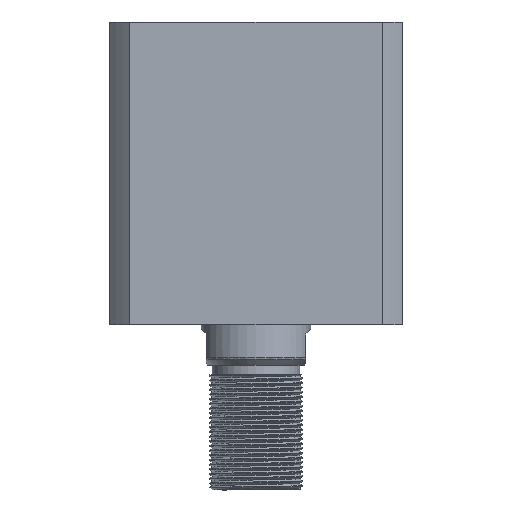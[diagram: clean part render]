
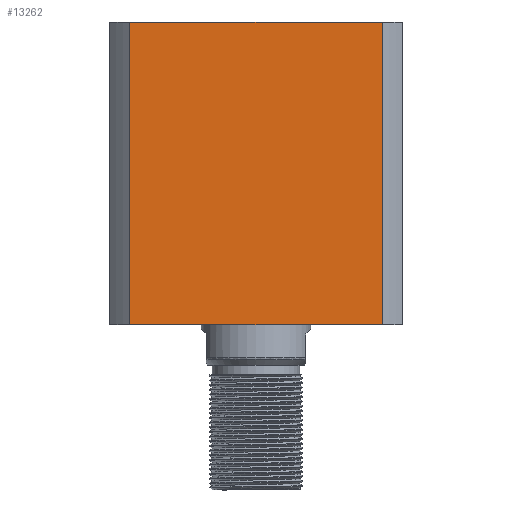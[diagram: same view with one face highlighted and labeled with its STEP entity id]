
A CAD part, front view. The second image highlights one B-rep face of the part: STEP entity #13262.
In plain terms, the highlighted planar face has unit normal (0, -1, 0) as drawn and (0, 1, 0) by its records, which use the part's own axes.
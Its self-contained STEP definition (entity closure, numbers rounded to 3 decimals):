
#1416 = LINE ( 'NONE', #7533, #14822 ) ;
#1929 = EDGE_CURVE ( 'NONE', #8744, #21525, #1416, .T. ) ;
#2259 = VECTOR ( 'NONE', #9246, 1000. ) ;
#3607 = FACE_OUTER_BOUND ( 'NONE', #14651, .T. ) ;
#5326 = CARTESIAN_POINT ( 'NONE',  ( -40.435, 47., 97. ) ) ;
#5847 = ORIENTED_EDGE ( 'NONE', *, *, #10302, .F. ) ;
#6116 = LINE ( 'NONE', #19848, #19928 ) ;
#7208 = VERTEX_POINT ( 'NONE', #5326 ) ;
#7399 = AXIS2_PLACEMENT_3D ( 'NONE', #11323, #21715, #11396 ) ;
#7470 = CARTESIAN_POINT ( 'NONE',  ( -40.435, 47., -203. ) ) ;
#7533 = CARTESIAN_POINT ( 'NONE',  ( 40.435, 47., -203. ) ) ;
#8224 = CARTESIAN_POINT ( 'NONE',  ( -47., 47., 0. ) ) ;
#8744 = VERTEX_POINT ( 'NONE', #14064 ) ;
#9246 = DIRECTION ( 'NONE',  ( 0., 0., -1. ) ) ;
#9658 = PLANE ( 'NONE',  #7399 ) ;
#10302 = EDGE_CURVE ( 'NONE', #21525, #7208, #6116, .T. ) ;
#10486 = ORIENTED_EDGE ( 'NONE', *, *, #1929, .F. ) ;
#11152 = EDGE_CURVE ( 'NONE', #7208, #21612, #16160, .T. ) ;
#11323 = CARTESIAN_POINT ( 'NONE',  ( -47., 47., 97. ) ) ;
#11396 = DIRECTION ( 'NONE',  ( 0., 0., -1. ) ) ;
#12381 = ORIENTED_EDGE ( 'NONE', *, *, #17805, .T. ) ;
#12636 = DIRECTION ( 'NONE',  ( 0., 0., 1. ) ) ;
#13262 = ADVANCED_FACE ( 'NONE', ( #3607 ), #9658, .F. ) ;
#13891 = CARTESIAN_POINT ( 'NONE',  ( -40.435, 47., 0. ) ) ;
#14064 = CARTESIAN_POINT ( 'NONE',  ( 40.435, 47., 0. ) ) ;
#14651 = EDGE_LOOP ( 'NONE', ( #10486, #12381, #19798, #5847 ) ) ;
#14822 = VECTOR ( 'NONE', #12636, 1000. ) ;
#15209 = LINE ( 'NONE', #8224, #19228 ) ;
#16160 = LINE ( 'NONE', #7470, #2259 ) ;
#17805 = EDGE_CURVE ( 'NONE', #8744, #21612, #15209, .T. ) ;
#18608 = DIRECTION ( 'NONE',  ( -1., 0., 0. ) ) ;
#19228 = VECTOR ( 'NONE', #18608, 1000. ) ;
#19798 = ORIENTED_EDGE ( 'NONE', *, *, #11152, .F. ) ;
#19848 = CARTESIAN_POINT ( 'NONE',  ( -47., 47., 97. ) ) ;
#19928 = VECTOR ( 'NONE', #21576, 1000. ) ;
#20428 = CARTESIAN_POINT ( 'NONE',  ( 40.435, 47., 97. ) ) ;
#21525 = VERTEX_POINT ( 'NONE', #20428 ) ;
#21576 = DIRECTION ( 'NONE',  ( -1., 0., 0. ) ) ;
#21612 = VERTEX_POINT ( 'NONE', #13891 ) ;
#21715 = DIRECTION ( 'NONE',  ( 0., -1., 0. ) ) ;
